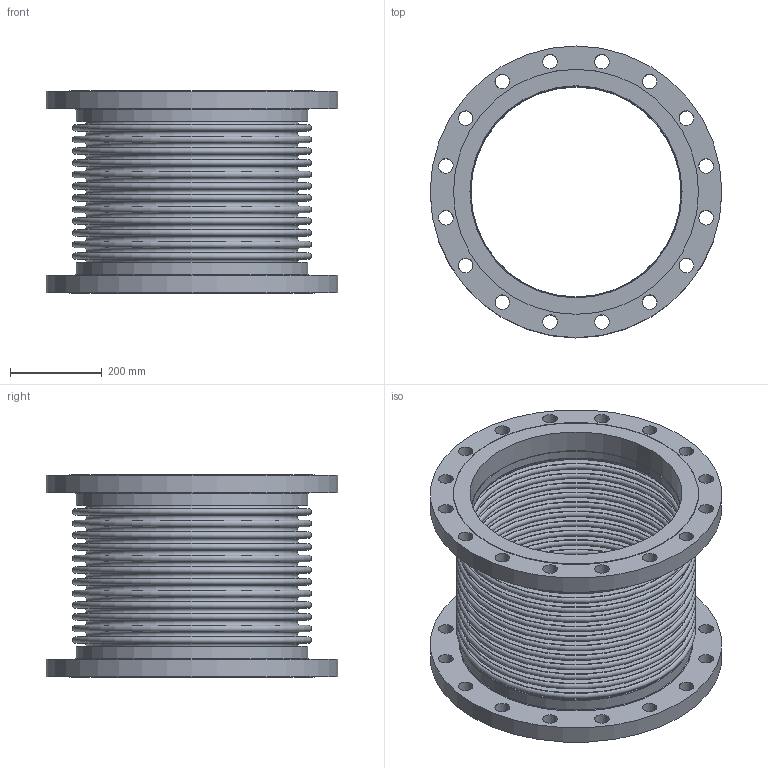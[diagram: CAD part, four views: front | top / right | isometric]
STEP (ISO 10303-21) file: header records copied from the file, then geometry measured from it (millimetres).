
FILE_DESCRIPTION(/* description */ ('EXPANSION JOINT,SINGLE, FLANGED ENDS,18 INCH','CAx-IF Rec.Pracs.---Representation and Presentation of Product Manufacturing Information (PMI)---4.0---2014-10-13'),/* implementation_level */ '2;1');
FILE_NAME(/* name */ 'US-18-12-85L-FLANGED ENDS.stp',/* time_stamp */ '2026-07-31T17:38:28-05:00',/* author */ ('Guadalupe'),/* organization */ (''),/* preprocessor_version */ 'ST-DEVELOPER v20.1',/* originating_system */ 'Autodesk Inventor 2026',/* authorisation */ '');
FILE_SCHEMA (('AP242_MANAGED_MODEL_BASED_3D_ENGINEERING_MIM_LF { 1 0 10303 442 2 1 4 }'));
Length unit declared in the file: inch
Products named in the file (3): 18-85L; 18-85L-02; 18-85L-01
Assembly tree (3 placements, depth 2):
  18-85L
    18-85L-02  x2
    18-85L-01
Bounding box: 635 x 635 x 440.94 mm (x, y, z)
Volume: 14206187.1 mm3; surface area: 4014407.3 mm2
Topology: 5 solids, 5 shells, 160 faces, 294 edges, 196 vertices
Faces by surface type: plane 62, torus 54, cylinder 44
Full cylindrical faces by diameter (mm): 31.75 x32, 457.2 x2, 459.638 x2, 461.772 x2, 504.952 x2, 533.4 x2, 635 x2
Entity records: 3606 total; most frequent: DIRECTION 738, CARTESIAN_POINT 537, ORIENTED_EDGE 456, AXIS2_PLACEMENT_3D 357, EDGE_CURVE 228, EDGE_LOOP 224, CIRCLE 204, VERTEX_POINT 152
